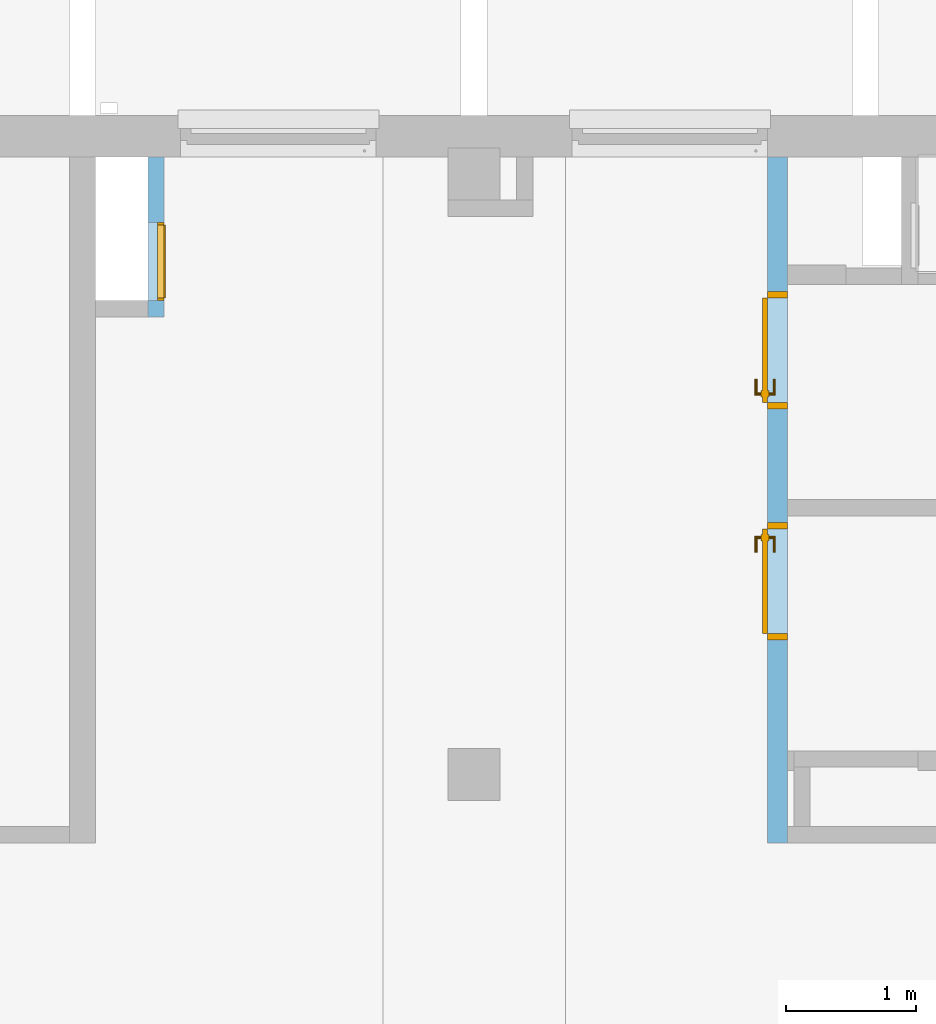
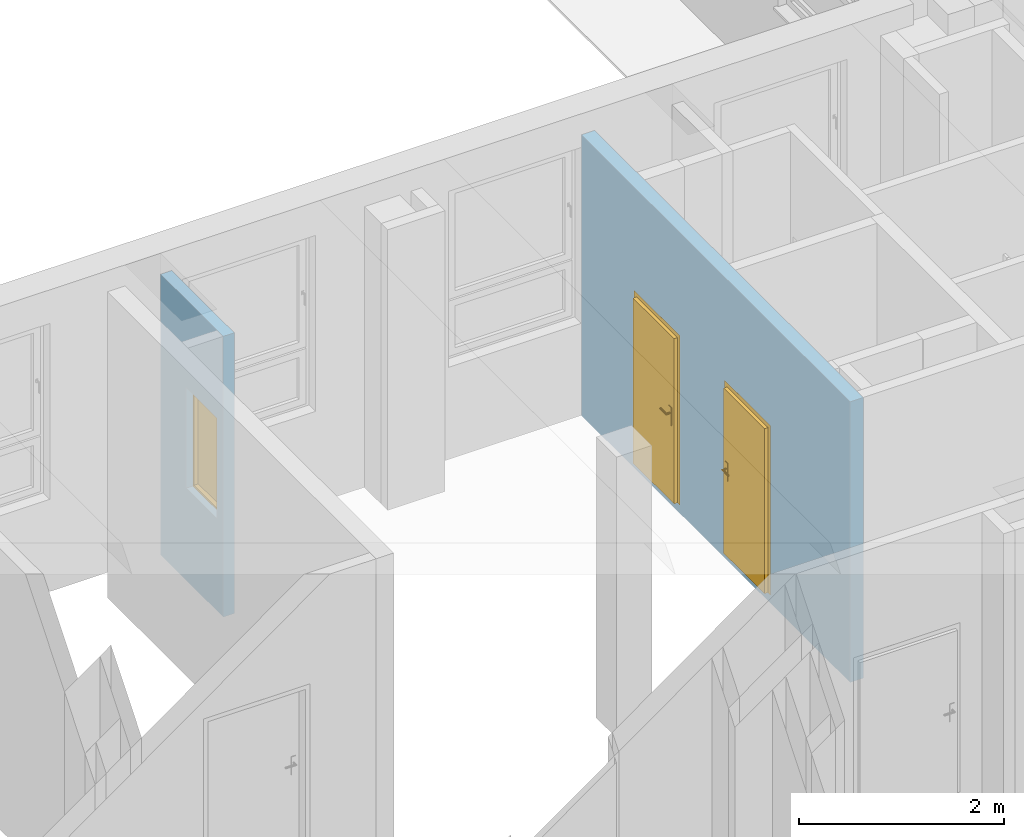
# One storey, part 65 of 140: 2 doors, 1 window, 3 openings, plus 2 elements that do not belong to this part.
"""IFC4 building model written with IfcOpenShell, lengths in metres."""

from ifc_helpers import new_model, entity, si_unit, converted_unit, derived_unit, frame, frame_2d, origin, origin_with_axes, place, context, subcontext, project, spatial, polyline, rectangle, outline, extrude, closed_shell, open_shell, faceted_brep, surface_model, source, transform, mapped, material, layer, layer_set, layer_usage, type_object, element, fill, save


model = new_model("IFC4")

# Units and contexts
model_context = context("Model", 3, precision=1e-05, world=origin())
body_context = subcontext(model_context, "Body", "Model", "MODEL_VIEW")
ifc_project = project(units=[si_unit("LENGTHUNIT", "METRE"), si_unit("AREAUNIT", "SQUARE_METRE"), si_unit("VOLUMEUNIT", "CUBIC_METRE"), si_unit("MASSUNIT", "GRAM", prefix="KILO"), converted_unit("PLANEANGLEUNIT", "DEGREE", entity("IfcPlaneAngleMeasure", 0.0174532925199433), si_unit("PLANEANGLEUNIT", "RADIAN"), dimensions=[0, 0, 0, 0, 0, 0, 0]), derived_unit("THERMALTRANSMITTANCEUNIT", [(si_unit("POWERUNIT", "WATT"), 1), (si_unit("THERMODYNAMICTEMPERATUREUNIT", "KELVIN"), -1), (si_unit("LENGTHUNIT", "METRE"), -2)]), derived_unit("VOLUMETRICFLOWRATEUNIT", [(si_unit("LENGTHUNIT", "METRE"), 3), (converted_unit("TIMEUNIT", "hour", entity("IfcTimeMeasure", 3600.0), si_unit("TIMEUNIT", "SECOND"), dimensions=[0, 0, 1, 0, 0, 0, 0]), -1), (si_unit("LENGTHUNIT", "METRE"), -1)])], contexts=[model_context])

# Site, building, storey
site_placement = place(None, origin())
site = spatial("IfcSite", under=ifc_project, at=site_placement, Name="3. ASŘ", CompositionType="ELEMENT")
building_placement = place(site_placement, origin())
building = spatial("IfcBuilding", under=site, at=building_placement, Name="Pavilon C", CompositionType="ELEMENT")
storey_placement = place(building_placement, origin())
storey = spatial("IfcBuildingStorey", under=building, at=storey_placement, Name="Půdorys 1.NP", CompositionType="ELEMENT", Elevation=0.0)

# Wall, opening, window
ifc_material_1 = material(Name="ZDIVO Z CDm")
ifc_layer_1 = layer(ifc_material_1, 0.125)
ifc_layer_set_1 = layer_set([ifc_layer_1])
ifc_layer_usage_1 = layer_usage(ifc_layer_set_1, "AXIS2", "POSITIVE", 0.0)
wall_1_placement = place(storey_placement, frame((15.5, 14.93, -0.1), z_axis=(0.0, 0.0, 1.0), x_axis=(0.0, -1.0, 0.0)))
wall_1 = element("IfcWall", 1, at=wall_1_placement, inside=storey, material=ifc_layer_usage_1, Name="ZDIVO Z CDm", context=body_context, shape_type="SweptSolid", body=[
    extrude(rectangle(XDim=1.225, YDim=0.125, at=frame_2d((0.6125, 0.0625), x_axis=(1.0, 0.0))), origin_with_axes(), (0.0, 0.0, 1.0), 3.35),
])
opening_1_placement = place(wall_1_placement, frame((1.1, 0.125, 1.1), z_axis=(0.0, -1.0, 0.0), x_axis=(0.0, 0.0, 1.0)))
opening_1 = element("IfcOpeningElement", 2, at=opening_1_placement, cuts=wall_1, Name="Okenní otvor", ObjectType="Opening", context=body_context, shape_type="SweptSolid", body=[
    extrude(outline(polyline([(0.0, 0.6), (1.2, 0.6), (1.2, 0.0), (0.0, 0.0), (0.0, 0.6)])), origin_with_axes(), (0.0, 0.0, 1.0), 0.125),
])
shared_shape_1 = source(origin_with_axes(), body_context, "Body", "Brep", [
    faceted_brep([(0.0, 0.0600000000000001, 1.2), (0.0, 0.06, 4.91096680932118e-19), (0.02, 0.06, 4.91096680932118e-19), (0.02, 0.0600000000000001, 1.2), (0.0, 0.01, 6.61433067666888e-18), (0.0, 0.0100000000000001, 1.2), (0.02, 0.0100000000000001, 1.2), (0.02, 0.01, 6.61433067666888e-18)], [[[0, 1, 2, 3]], [[4, 5, 6, 7]], [[1, 0, 5, 4]], [[2, 1, 4, 7]], [[3, 2, 7, 6]], [[0, 3, 6, 5]]], orient=[[False], [False], [False], [False], [False], [False]]),
    faceted_brep([(0.58, 0.0600000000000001, 1.2), (0.58, 0.06, 4.91096680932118e-19), (0.6, 0.06, 4.91096680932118e-19), (0.6, 0.0600000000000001, 1.2), (0.58, 0.01, 6.61433067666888e-18), (0.58, 0.0100000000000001, 1.2), (0.6, 0.0100000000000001, 1.2), (0.6, 0.01, 6.61433067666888e-18)], [[[0, 1, 2, 3]], [[4, 5, 6, 7]], [[1, 0, 5, 4]], [[2, 1, 4, 7]], [[3, 2, 7, 6]], [[0, 3, 6, 5]]], orient=[[False], [False], [False], [False], [False], [False]]),
    faceted_brep([(0.02, 0.06, 0.02), (0.02, 0.06, 4.91096680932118e-19), (0.58, 0.06, 4.91096680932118e-19), (0.58, 0.06, 0.02), (0.02, 0.01, 6.61433067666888e-18), (0.02, 0.01, 0.02), (0.58, 0.01, 0.02), (0.58, 0.01, 6.61433067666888e-18)], [[[0, 1, 2, 3]], [[4, 5, 6, 7]], [[1, 0, 5, 4]], [[2, 1, 4, 7]], [[3, 2, 7, 6]], [[0, 3, 6, 5]]], orient=[[False], [False], [False], [False], [False], [False]]),
    faceted_brep([(0.02, 0.0600000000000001, 1.2), (0.02, 0.0600000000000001, 1.18), (0.58, 0.0600000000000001, 1.18), (0.58, 0.0600000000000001, 1.2), (0.02, 0.0100000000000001, 1.18), (0.02, 0.0100000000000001, 1.2), (0.58, 0.0100000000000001, 1.2), (0.58, 0.0100000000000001, 1.18)], [[[0, 1, 2, 3]], [[4, 5, 6, 7]], [[1, 0, 5, 4]], [[2, 1, 4, 7]], [[3, 2, 7, 6]], [[0, 3, 6, 5]]], orient=[[False], [False], [False], [False], [False], [False]]),
    faceted_brep([(0.02, 0.0100000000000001, 1.18), (0.02, 0.01, 0.02), (0.58, 0.01, 0.02), (0.58, 0.0100000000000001, 1.18), (0.02, 0.0, 0.02), (0.02, 1.4210854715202e-16, 1.18), (0.58, 1.4210854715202e-16, 1.18), (0.58, 0.0, 0.02)], [[[0, 1, 2, 3]], [[4, 5, 6, 7]], [[1, 0, 5, 4]], [[2, 1, 4, 7]], [[3, 2, 7, 6]], [[0, 3, 6, 5]]], orient=[[False], [False], [False], [False], [False], [False]]),
])
window_placement = place(opening_1_placement, frame((0.0, 0.599999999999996, -0.00999999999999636), z_axis=(1.0, 0.0, 0.0), x_axis=(0.0, -1.0, 1.22464679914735e-16)))
window = element("IfcWindow", 3, at=window_placement, inside=storey, Name="O01", OverallHeight=1.2, OverallWidth=0.6, PartitioningType="USERDEFINED", PredefinedType="WINDOW", context=body_context, shape_type="MappedRepresentation", body=[
    mapped(shared_shape_1, transform((0.0, 0.0, 0.0), x_axis=(1.0, 0.0, 0.0), y_axis=(0.0, -1.0, 0.0), z_axis=(0.0, 0.0, 1.0), scale=1.0)),
])
fill(opening_1, window)

# Wall, openings, doors
ifc_material_2 = material(Name="YTONG 150")
ifc_layer_2 = layer(ifc_material_2, 0.15)
ifc_layer_set_2 = layer_set([ifc_layer_2])
ifc_layer_usage_2 = layer_usage(ifc_layer_set_2, "AXIS2", "POSITIVE", 0.0)
wall_2_placement = place(storey_placement, frame((20.25, 14.93, -0.1), z_axis=(0.0, 0.0, 1.0), x_axis=(0.0, -1.0, 0.0)))
wall_2 = element("IfcWall", 4, at=wall_2_placement, inside=storey, material=ifc_layer_usage_2, Name="YTONG 150", context=body_context, shape_type="SweptSolid", body=[
    extrude(rectangle(XDim=5.255, YDim=0.15, at=frame_2d((2.6275, 0.075), x_axis=(1.0, 0.0))), origin_with_axes(), (0.0, 0.0, 1.0), 3.35),
])
opening_2_placement = place(wall_2_placement, frame((1.02999999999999, 0.0, 0.1), z_axis=(0.0, 1.0, 0.0), x_axis=(0.0, 0.0, 1.0)))
opening_2 = element("IfcOpeningElement", 5, at=opening_2_placement, cuts=wall_2, Name="Dveřní otvor", ObjectType="Opening", context=body_context, shape_type="SweptSolid", body=[
    extrude(outline(polyline([(0.0, 0.9), (2.02, 0.9), (2.02, 0.0), (0.0, 0.0), (0.0, 0.9)])), origin_with_axes(), (0.0, 0.0, 1.0), 0.15),
])
opening_3_placement = place(wall_2_placement, frame((2.8, 0.0, 0.1), z_axis=(0.0, 1.0, 0.0), x_axis=(0.0, 0.0, 1.0)))
opening_3 = element("IfcOpeningElement", 6, at=opening_3_placement, cuts=wall_2, Name="Dveřní otvor", ObjectType="Opening", context=body_context, shape_type="SweptSolid", body=[
    extrude(outline(polyline([(0.0, 0.9), (2.02, 0.9), (2.02, 0.0), (0.0, 0.0), (0.0, 0.9)])), origin_with_axes(), (0.0, 0.0, 1.0), 0.15),
])
door_type_1 = type_object("IfcDoorType", Name="D101", OperationType="NOTDEFINED", ParameterTakesPrecedence=False, PredefinedType="DOOR")
shared_shape_2 = source(origin_with_axes(), body_context, "Body", "SurfaceModel", [
    surface_model("IfcShellBasedSurfaceModel", [(0.0, 0.15, 2.02), (0.0, 0.15, -9.18485099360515e-18), (0.05, 0.15, -9.18485099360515e-18), (0.05, 0.15, 2.02), (0.0, 0.0, 9.18485099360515e-18), (0.0, 2.55795384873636e-16, 2.02), (0.05, 2.55795384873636e-16, 2.02), (0.05, 0.0, 9.18485099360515e-18)], [closed_shell([[[0, 1, 2, 3]], [[4, 5, 6, 7]], [[1, 0, 5, 4]], [[2, 1, 4, 7]], [[3, 2, 7, 6]], [[0, 3, 6, 5]]], orient=[[False], [False], [False], [False], [False], [False]])]),
    surface_model("IfcShellBasedSurfaceModel", [(0.85, 0.15, 2.02), (0.85, 0.15, -9.18485099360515e-18), (0.9, 0.15, -9.18485099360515e-18), (0.9, 0.15, 2.02), (0.85, 0.0, 9.18485099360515e-18), (0.85, 2.55795384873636e-16, 2.02), (0.9, 2.55795384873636e-16, 2.02), (0.9, 0.0, 9.18485099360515e-18)], [closed_shell([[[0, 1, 2, 3]], [[4, 5, 6, 7]], [[1, 0, 5, 4]], [[2, 1, 4, 7]], [[3, 2, 7, 6]], [[0, 3, 6, 5]]], orient=[[False], [False], [False], [False], [False], [False]])]),
    surface_model("IfcShellBasedSurfaceModel", [(0.05, 0.15, 2.02), (0.05, 0.15, 1.97), (0.85, 0.15, 1.97), (0.85, 0.15, 2.02), (0.05, 2.27373675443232e-16, 1.97), (0.05, 2.27373675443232e-16, 2.02), (0.85, 2.27373675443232e-16, 2.02), (0.85, 2.27373675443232e-16, 1.97)], [closed_shell([[[0, 1, 2, 3]], [[4, 5, 6, 7]], [[1, 0, 5, 4]], [[2, 1, 4, 7]], [[3, 2, 7, 6]], [[0, 3, 6, 5]]], orient=[[False], [False], [False], [False], [False], [False]])]),
    surface_model("IfcShellBasedSurfaceModel", [(0.05, 0.19, 1.97), (0.05, 0.19, -1.40834381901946e-17), (0.85, 0.19, -1.40834381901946e-17), (0.85, 0.19, 1.97), (0.05, 0.15, -9.18485099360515e-18), (0.05, 0.15, 1.97), (0.85, 0.15, 1.97), (0.85, 0.15, -9.18485099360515e-18)], [closed_shell([[[0, 1, 2, 3]], [[4, 5, 6, 7]], [[1, 0, 5, 4]], [[2, 1, 4, 7]], [[3, 2, 7, 6]], [[0, 3, 6, 5]]], orient=[[False], [False], [False], [False], [False], [False]])]),
    surface_model("IfcShellBasedSurfaceModel", [(0.76, 0.15, 1.125), (0.76, 0.15, 0.91), (0.81, 0.15, 0.91), (0.81, 0.15, 1.125), (0.76, 0.14, 0.91), (0.76, 0.14, 1.125), (0.81, 0.14, 1.125), (0.81, 0.14, 0.91)], [closed_shell([[[0, 1, 2, 3]], [[4, 5, 6, 7]], [[1, 0, 5, 4]], [[2, 1, 4, 7]], [[3, 2, 7, 6]], [[0, 3, 6, 5]]], orient=[[False], [False], [False], [False], [False], [False]])]),
    surface_model("IfcShellBasedSurfaceModel", [(0.785, 0.14, 1.06), (0.78, 0.14, 1.05866025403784), (0.776339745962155, 0.14, 1.055), (0.775, 0.14, 1.05), (0.776339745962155, 0.14, 1.045), (0.78, 0.14, 1.04133974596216), (0.785, 0.14, 1.04), (0.79, 0.14, 1.04133974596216), (0.793660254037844, 0.14, 1.045), (0.795, 0.14, 1.05), (0.793660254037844, 0.14, 1.055), (0.79, 0.14, 1.05866025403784), (0.79, 0.0950000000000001, 1.05866025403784), (0.785, 0.1, 1.06), (0.793660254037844, 0.0913397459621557, 1.055), (0.795, 0.0900000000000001, 1.05), (0.793660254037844, 0.0913397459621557, 1.045), (0.79, 0.0950000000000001, 1.04133974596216), (0.785, 0.1, 1.04), (0.78, 0.105, 1.04133974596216), (0.776339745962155, 0.108660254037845, 1.045), (0.775, 0.11, 1.05), (0.776339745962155, 0.108660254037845, 1.055), (0.78, 0.105, 1.05866025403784), (0.67, 0.0950000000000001, 1.05866025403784), (0.67, 0.1, 1.06), (0.67, 0.0913397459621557, 1.055), (0.67, 0.0900000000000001, 1.05), (0.67, 0.0913397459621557, 1.045), (0.67, 0.0950000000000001, 1.04133974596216), (0.67, 0.1, 1.04), (0.67, 0.105, 1.04133974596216), (0.67, 0.108660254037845, 1.045), (0.67, 0.11, 1.05), (0.67, 0.108660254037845, 1.055), (0.67, 0.105, 1.05866025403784)], [open_shell([[[0, 1, 2, 3, 4, 5, 6, 7, 8, 9, 10, 11]], [[0, 11, 12, 13]], [[11, 10, 14, 12]], [[10, 9, 15, 14]], [[9, 8, 16, 15]], [[8, 7, 17, 16]], [[7, 6, 18, 17]], [[6, 5, 19, 18]], [[5, 4, 20, 19]], [[4, 3, 21, 20]], [[3, 2, 22, 21]], [[2, 1, 23, 22]], [[1, 0, 13, 23]], [[13, 12, 24, 25]], [[12, 14, 26, 24]], [[14, 15, 27, 26]], [[15, 16, 28, 27]], [[16, 17, 29, 28]], [[17, 18, 30, 29]], [[18, 19, 31, 30]], [[19, 20, 32, 31]], [[20, 21, 33, 32]], [[21, 22, 34, 33]], [[22, 23, 35, 34]], [[23, 13, 25, 35]]], orient=[[False], [False], [False], [False], [False], [False], [False], [False], [False], [False], [False], [False], [False], [False], [False], [False], [False], [False], [False], [False], [False], [False], [False], [False], [False]])]),
    surface_model("IfcShellBasedSurfaceModel", [(0.76, 0.19, 1.125), (0.81, 0.19, 1.125), (0.81, 0.19, 0.91), (0.76, 0.19, 0.91), (0.76, 0.2, 0.91), (0.81, 0.2, 0.91), (0.81, 0.2, 1.125), (0.76, 0.2, 1.125)], [closed_shell([[[0, 1, 2, 3]], [[4, 5, 6, 7]], [[3, 4, 7, 0]], [[2, 5, 4, 3]], [[1, 6, 5, 2]], [[0, 7, 6, 1]]], orient=[[False], [False], [False], [False], [False], [False]])]),
    surface_model("IfcShellBasedSurfaceModel", [(0.785, 0.2, 1.06), (0.79, 0.2, 1.05866025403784), (0.793660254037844, 0.2, 1.055), (0.795, 0.2, 1.05), (0.793660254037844, 0.2, 1.045), (0.79, 0.2, 1.04133974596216), (0.785, 0.2, 1.04), (0.78, 0.2, 1.04133974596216), (0.776339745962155, 0.2, 1.045), (0.775, 0.2, 1.05), (0.776339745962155, 0.2, 1.055), (0.78, 0.2, 1.05866025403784), (0.785, 0.24, 1.06), (0.79, 0.245, 1.05866025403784), (0.793660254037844, 0.248660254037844, 1.055), (0.795, 0.25, 1.05), (0.793660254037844, 0.248660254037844, 1.045), (0.79, 0.245, 1.04133974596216), (0.785, 0.24, 1.04), (0.78, 0.235, 1.04133974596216), (0.776339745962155, 0.231339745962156, 1.045), (0.775, 0.23, 1.05), (0.776339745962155, 0.231339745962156, 1.055), (0.78, 0.235, 1.05866025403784), (0.67, 0.24, 1.06), (0.67, 0.245, 1.05866025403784), (0.67, 0.248660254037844, 1.055), (0.67, 0.25, 1.05), (0.67, 0.248660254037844, 1.045), (0.67, 0.245, 1.04133974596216), (0.67, 0.24, 1.04), (0.67, 0.235, 1.04133974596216), (0.67, 0.231339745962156, 1.045), (0.67, 0.23, 1.05), (0.67, 0.231339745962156, 1.055), (0.67, 0.235, 1.05866025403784)], [open_shell([[[0, 1, 2, 3, 4, 5, 6, 7, 8, 9, 10, 11]], [[0, 12, 13, 1]], [[1, 13, 14, 2]], [[2, 14, 15, 3]], [[3, 15, 16, 4]], [[4, 16, 17, 5]], [[5, 17, 18, 6]], [[6, 18, 19, 7]], [[7, 19, 20, 8]], [[8, 20, 21, 9]], [[9, 21, 22, 10]], [[10, 22, 23, 11]], [[11, 23, 12, 0]], [[12, 24, 25, 13]], [[13, 25, 26, 14]], [[14, 26, 27, 15]], [[15, 27, 28, 16]], [[16, 28, 29, 17]], [[17, 29, 30, 18]], [[18, 30, 31, 19]], [[19, 31, 32, 20]], [[20, 32, 33, 21]], [[21, 33, 34, 22]], [[22, 34, 35, 23]], [[23, 35, 24, 12]]], orient=[[False], [False], [False], [False], [False], [False], [False], [False], [False], [False], [False], [False], [False], [False], [False], [False], [False], [False], [False], [False], [False], [False], [False], [False], [False]])]),
])
door_1_placement = place(opening_2_placement, frame((0.0, 3.63797880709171e-15, 0.149999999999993), z_axis=(1.0, 0.0, 0.0), x_axis=(0.0, 1.0, -1.22464679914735e-16)))
door_1 = element("IfcDoor", 7, at=door_1_placement, inside=storey, type_object=door_type_1, Name="D101", OverallHeight=2.02, OverallWidth=0.9, context=body_context, shape_type="MappedRepresentation", body=[
    mapped(shared_shape_2, transform((0.0, 0.0, 0.0), x_axis=(1.0, 0.0, 0.0), y_axis=(0.0, -1.0, 0.0), z_axis=(0.0, 0.0, 1.0), scale=1.0)),
])
fill(opening_2, door_1)
door_type_2 = type_object("IfcDoorType", Name="D101", OperationType="NOTDEFINED", ParameterTakesPrecedence=False, PredefinedType="DOOR")
shared_shape_3 = source(origin_with_axes(), body_context, "Body", "SurfaceModel", [
    surface_model("IfcShellBasedSurfaceModel", [(0.0, 0.15, 2.02), (0.0, 0.15, -9.18485099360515e-18), (0.05, 0.15, -9.18485099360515e-18), (0.05, 0.15, 2.02), (0.0, 0.0, 9.18485099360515e-18), (0.0, 2.55795384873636e-16, 2.02), (0.05, 2.55795384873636e-16, 2.02), (0.05, 0.0, 9.18485099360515e-18)], [closed_shell([[[0, 1, 2, 3]], [[4, 5, 6, 7]], [[1, 0, 5, 4]], [[2, 1, 4, 7]], [[3, 2, 7, 6]], [[0, 3, 6, 5]]], orient=[[False], [False], [False], [False], [False], [False]])]),
    surface_model("IfcShellBasedSurfaceModel", [(0.85, 0.15, 2.02), (0.85, 0.15, -9.18485099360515e-18), (0.9, 0.15, -9.18485099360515e-18), (0.9, 0.15, 2.02), (0.85, 0.0, 9.18485099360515e-18), (0.85, 2.55795384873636e-16, 2.02), (0.9, 2.55795384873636e-16, 2.02), (0.9, 0.0, 9.18485099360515e-18)], [closed_shell([[[0, 1, 2, 3]], [[4, 5, 6, 7]], [[1, 0, 5, 4]], [[2, 1, 4, 7]], [[3, 2, 7, 6]], [[0, 3, 6, 5]]], orient=[[False], [False], [False], [False], [False], [False]])]),
    surface_model("IfcShellBasedSurfaceModel", [(0.05, 0.15, 2.02), (0.05, 0.15, 1.97), (0.85, 0.15, 1.97), (0.85, 0.15, 2.02), (0.05, 2.27373675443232e-16, 1.97), (0.05, 2.27373675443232e-16, 2.02), (0.85, 2.27373675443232e-16, 2.02), (0.85, 2.27373675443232e-16, 1.97)], [closed_shell([[[0, 1, 2, 3]], [[4, 5, 6, 7]], [[1, 0, 5, 4]], [[2, 1, 4, 7]], [[3, 2, 7, 6]], [[0, 3, 6, 5]]], orient=[[False], [False], [False], [False], [False], [False]])]),
    surface_model("IfcShellBasedSurfaceModel", [(0.05, 0.19, 1.97), (0.05, 0.19, -1.40834381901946e-17), (0.85, 0.19, -1.40834381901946e-17), (0.85, 0.19, 1.97), (0.05, 0.15, -9.18485099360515e-18), (0.05, 0.15, 1.97), (0.85, 0.15, 1.97), (0.85, 0.15, -9.18485099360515e-18)], [closed_shell([[[0, 1, 2, 3]], [[4, 5, 6, 7]], [[1, 0, 5, 4]], [[2, 1, 4, 7]], [[3, 2, 7, 6]], [[0, 3, 6, 5]]], orient=[[False], [False], [False], [False], [False], [False]])]),
    surface_model("IfcShellBasedSurfaceModel", [(0.76, 0.15, 1.125), (0.76, 0.15, 0.91), (0.81, 0.15, 0.91), (0.81, 0.15, 1.125), (0.76, 0.14, 0.91), (0.76, 0.14, 1.125), (0.81, 0.14, 1.125), (0.81, 0.14, 0.91)], [closed_shell([[[0, 1, 2, 3]], [[4, 5, 6, 7]], [[1, 0, 5, 4]], [[2, 1, 4, 7]], [[3, 2, 7, 6]], [[0, 3, 6, 5]]], orient=[[False], [False], [False], [False], [False], [False]])]),
    surface_model("IfcShellBasedSurfaceModel", [(0.785, 0.14, 1.06), (0.78, 0.14, 1.05866025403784), (0.776339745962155, 0.14, 1.055), (0.775, 0.14, 1.05), (0.776339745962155, 0.14, 1.045), (0.78, 0.14, 1.04133974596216), (0.785, 0.14, 1.04), (0.79, 0.14, 1.04133974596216), (0.793660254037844, 0.14, 1.045), (0.795, 0.14, 1.05), (0.793660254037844, 0.14, 1.055), (0.79, 0.14, 1.05866025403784), (0.79, 0.0950000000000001, 1.05866025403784), (0.785, 0.1, 1.06), (0.793660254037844, 0.0913397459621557, 1.055), (0.795, 0.0900000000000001, 1.05), (0.793660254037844, 0.0913397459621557, 1.045), (0.79, 0.0950000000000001, 1.04133974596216), (0.785, 0.1, 1.04), (0.78, 0.105, 1.04133974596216), (0.776339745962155, 0.108660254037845, 1.045), (0.775, 0.11, 1.05), (0.776339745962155, 0.108660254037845, 1.055), (0.78, 0.105, 1.05866025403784), (0.67, 0.0950000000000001, 1.05866025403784), (0.67, 0.1, 1.06), (0.67, 0.0913397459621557, 1.055), (0.67, 0.0900000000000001, 1.05), (0.67, 0.0913397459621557, 1.045), (0.67, 0.0950000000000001, 1.04133974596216), (0.67, 0.1, 1.04), (0.67, 0.105, 1.04133974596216), (0.67, 0.108660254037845, 1.045), (0.67, 0.11, 1.05), (0.67, 0.108660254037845, 1.055), (0.67, 0.105, 1.05866025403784)], [open_shell([[[0, 1, 2, 3, 4, 5, 6, 7, 8, 9, 10, 11]], [[0, 11, 12, 13]], [[11, 10, 14, 12]], [[10, 9, 15, 14]], [[9, 8, 16, 15]], [[8, 7, 17, 16]], [[7, 6, 18, 17]], [[6, 5, 19, 18]], [[5, 4, 20, 19]], [[4, 3, 21, 20]], [[3, 2, 22, 21]], [[2, 1, 23, 22]], [[1, 0, 13, 23]], [[13, 12, 24, 25]], [[12, 14, 26, 24]], [[14, 15, 27, 26]], [[15, 16, 28, 27]], [[16, 17, 29, 28]], [[17, 18, 30, 29]], [[18, 19, 31, 30]], [[19, 20, 32, 31]], [[20, 21, 33, 32]], [[21, 22, 34, 33]], [[22, 23, 35, 34]], [[23, 13, 25, 35]]], orient=[[False], [False], [False], [False], [False], [False], [False], [False], [False], [False], [False], [False], [False], [False], [False], [False], [False], [False], [False], [False], [False], [False], [False], [False], [False]])]),
    surface_model("IfcShellBasedSurfaceModel", [(0.76, 0.19, 1.125), (0.81, 0.19, 1.125), (0.81, 0.19, 0.91), (0.76, 0.19, 0.91), (0.76, 0.2, 0.91), (0.81, 0.2, 0.91), (0.81, 0.2, 1.125), (0.76, 0.2, 1.125)], [closed_shell([[[0, 1, 2, 3]], [[4, 5, 6, 7]], [[3, 4, 7, 0]], [[2, 5, 4, 3]], [[1, 6, 5, 2]], [[0, 7, 6, 1]]], orient=[[False], [False], [False], [False], [False], [False]])]),
    surface_model("IfcShellBasedSurfaceModel", [(0.785, 0.2, 1.06), (0.79, 0.2, 1.05866025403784), (0.793660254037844, 0.2, 1.055), (0.795, 0.2, 1.05), (0.793660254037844, 0.2, 1.045), (0.79, 0.2, 1.04133974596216), (0.785, 0.2, 1.04), (0.78, 0.2, 1.04133974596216), (0.776339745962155, 0.2, 1.045), (0.775, 0.2, 1.05), (0.776339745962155, 0.2, 1.055), (0.78, 0.2, 1.05866025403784), (0.785, 0.24, 1.06), (0.79, 0.245, 1.05866025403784), (0.793660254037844, 0.248660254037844, 1.055), (0.795, 0.25, 1.05), (0.793660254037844, 0.248660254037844, 1.045), (0.79, 0.245, 1.04133974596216), (0.785, 0.24, 1.04), (0.78, 0.235, 1.04133974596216), (0.776339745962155, 0.231339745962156, 1.045), (0.775, 0.23, 1.05), (0.776339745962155, 0.231339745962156, 1.055), (0.78, 0.235, 1.05866025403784), (0.67, 0.24, 1.06), (0.67, 0.245, 1.05866025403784), (0.67, 0.248660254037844, 1.055), (0.67, 0.25, 1.05), (0.67, 0.248660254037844, 1.045), (0.67, 0.245, 1.04133974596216), (0.67, 0.24, 1.04), (0.67, 0.235, 1.04133974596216), (0.67, 0.231339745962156, 1.045), (0.67, 0.23, 1.05), (0.67, 0.231339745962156, 1.055), (0.67, 0.235, 1.05866025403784)], [open_shell([[[0, 1, 2, 3, 4, 5, 6, 7, 8, 9, 10, 11]], [[0, 12, 13, 1]], [[1, 13, 14, 2]], [[2, 14, 15, 3]], [[3, 15, 16, 4]], [[4, 16, 17, 5]], [[5, 17, 18, 6]], [[6, 18, 19, 7]], [[7, 19, 20, 8]], [[8, 20, 21, 9]], [[9, 21, 22, 10]], [[10, 22, 23, 11]], [[11, 23, 12, 0]], [[12, 24, 25, 13]], [[13, 25, 26, 14]], [[14, 26, 27, 15]], [[15, 27, 28, 16]], [[16, 28, 29, 17]], [[17, 29, 30, 18]], [[18, 30, 31, 19]], [[19, 31, 32, 20]], [[20, 32, 33, 21]], [[21, 33, 34, 22]], [[22, 34, 35, 23]], [[23, 35, 24, 12]]], orient=[[False], [False], [False], [False], [False], [False], [False], [False], [False], [False], [False], [False], [False], [False], [False], [False], [False], [False], [False], [False], [False], [False], [False], [False], [False]])]),
])
door_2_placement = place(opening_3_placement, frame((0.0, 0.900000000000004, 0.149999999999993), z_axis=(1.0, 0.0, 0.0), x_axis=(0.0, -1.0, 1.22464679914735e-16)))
door_2 = element("IfcDoor", 8, at=door_2_placement, inside=storey, type_object=door_type_2, Name="D101", OverallHeight=2.02, OverallWidth=0.9, context=body_context, shape_type="MappedRepresentation", body=[
    mapped(shared_shape_3, transform((0.0, 0.0, 0.0), x_axis=(1.0, 0.0, 0.0), y_axis=(0.0, 1.0, 0.0), z_axis=(0.0, 0.0, 1.0), scale=1.0)),
])
fill(opening_3, door_2)

save(model, "model.ifc")
